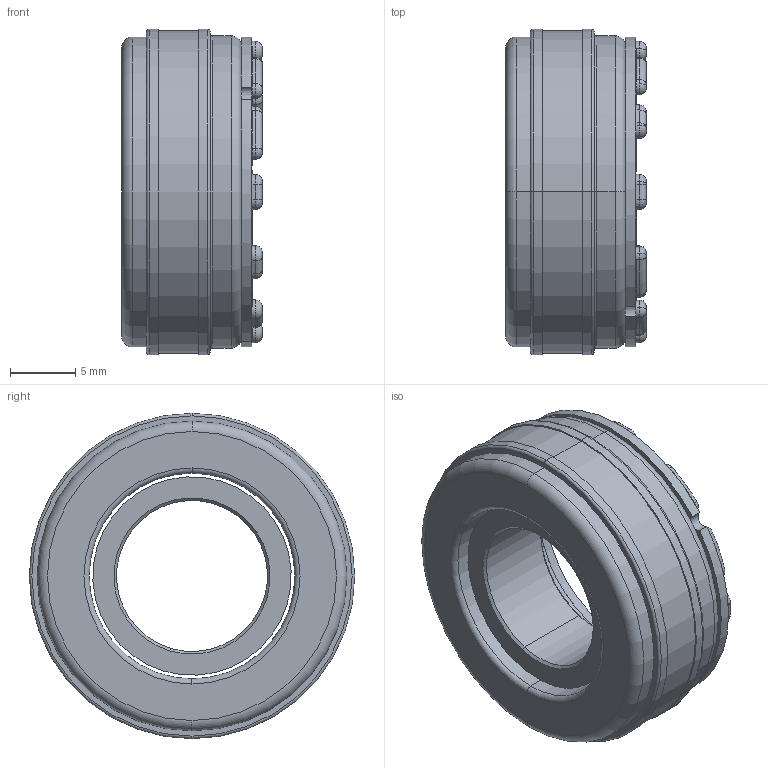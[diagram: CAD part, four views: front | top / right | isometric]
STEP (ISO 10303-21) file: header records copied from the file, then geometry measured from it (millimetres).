
FILE_DESCRIPTION (( 'STEP AP214' ), '1' );
FILE_NAME ('E-00108500.04.step', '2020-01-09T09:26:04', ( '' ), ( '' ), 'SwSTEP 2.0', 'SolidWorks 2018', '' );
FILE_SCHEMA (( 'AUTOMOTIVE_DESIGN' ));
Length unit declared in the file: millimetre
Products named in the file (4): E-00108499; E-00008504; E-00008498; E-00108500.04
Assembly tree (3 placements, depth 2):
  E-00108500.04
    E-00108499
    E-00008504
    E-00008498
Bounding box: 10.79 x 25 x 25 mm (x, y, z)
Volume: 3198.6 mm3; surface area: 3041.1 mm2
Topology: 3 solids, 3 shells, 591 faces, 1384 edges, 895 vertices
Faces by surface type: plane 264, cylinder 257, torus 66, cone 4
Entity records: 22218 total; most frequent: DIRECTION 3254, CARTESIAN_POINT 2876, ORIENTED_EDGE 2768, EDGE_CURVE 1384, AXIS2_PLACEMENT_3D 1273, VERTEX_POINT 895, LINE 708, VECTOR 708
